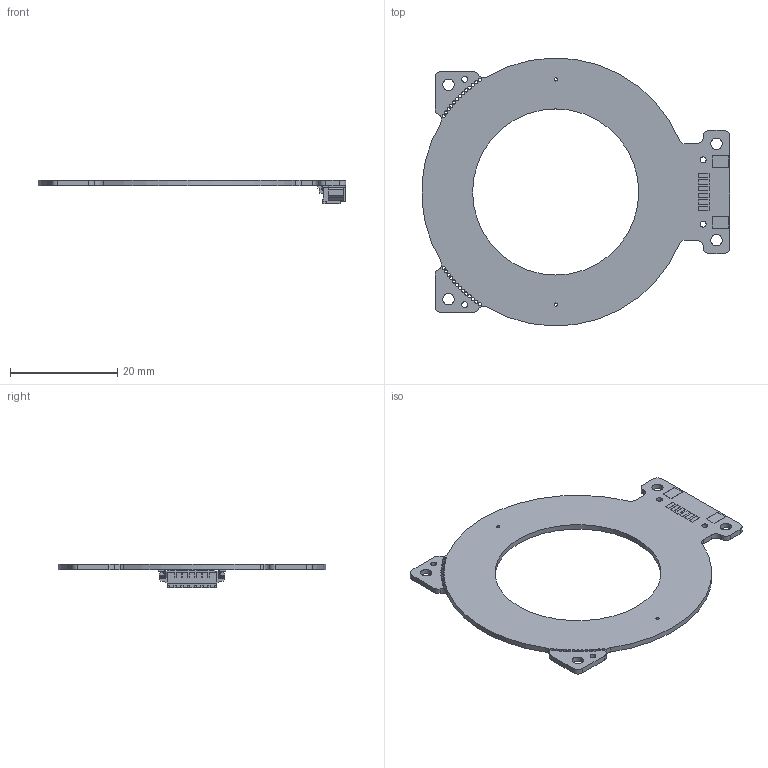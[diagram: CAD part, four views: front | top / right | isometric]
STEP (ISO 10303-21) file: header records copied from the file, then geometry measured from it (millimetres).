
FILE_DESCRIPTION (( 'STEP AP214' ), '1' );
FILE_NAME ('033_2018_0001_(50mm_B5_Sensor_RearCon_3D).STEP', '2024-11-07T12:18:40', ( '' ), ( '' ), 'SwSTEP 2.0', 'SolidWorks 2024', '' );
FILE_SCHEMA (( 'AUTOMOTIVE_DESIGN' ));
Length unit declared in the file: millimetre
Products named in the file (3): Molex532610671; 010-0170_0001_(50mm_Type6-5_Rotary_PCB); 033_2018_0001_(50mm_B5_Sensor_RearCon_3D)
Assembly tree (2 placements, depth 2):
  033_2018_0001_(50mm_B5_Sensor_RearCon_3D)
    010-0170_0001_(50mm_Type6-5_Rotary_PCB)
    Molex532610671
Bounding box: 57.43 x 49.98 x 4.43 mm (x, y, z)
Volume: 1523.8 mm3; surface area: 3685.6 mm2
Topology: 18 solids, 18 shells, 514 faces, 1346 edges, 882 vertices
Faces by surface type: plane 397, cylinder 117
Entity records: 21542 total; most frequent: CARTESIAN_POINT 2747, ORIENTED_EDGE 2692, DIRECTION 2622, EDGE_CURVE 1346, VECTOR 1108, LINE 1108, VERTEX_POINT 882, AXIS2_PLACEMENT_3D 757
